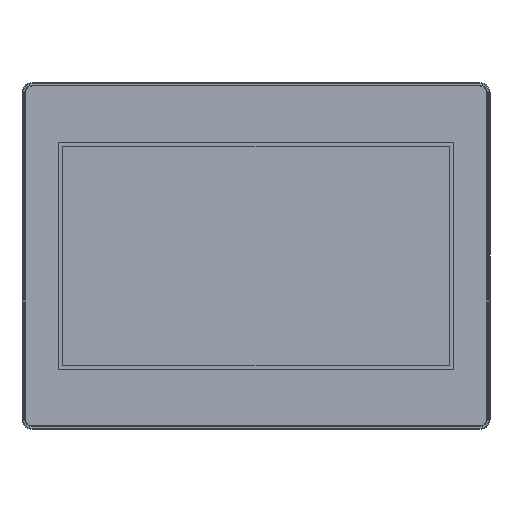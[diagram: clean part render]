
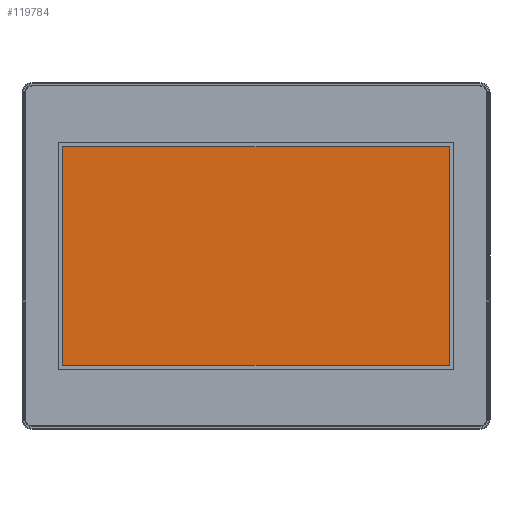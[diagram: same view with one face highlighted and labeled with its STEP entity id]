
A CAD part, top view. The second image highlights one B-rep face of the part: STEP entity #119784.
In plain terms, the highlighted planar face has unit normal (0, 0, 1).
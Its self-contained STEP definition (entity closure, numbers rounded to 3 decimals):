
#118571=CARTESIAN_POINT('',(-111.56,62.84,0.15));
#118572=DIRECTION('',(0.,0.,-1.));
#118573=DIRECTION('',(-1.,0.,0.));
#118574=AXIS2_PLACEMENT_3D('',#118571,#118572,#118573);
#118579=DIRECTION('',(1.,0.,0.));
#118580=VECTOR('',#118579,223.12);
#118581=CARTESIAN_POINT('',(-111.56,63.14,0.15));
#118582=LINE('',#118581,#118580);
#118586=CARTESIAN_POINT('',(111.56,62.84,0.15));
#118587=DIRECTION('',(0.,0.,-1.));
#118588=DIRECTION('',(0.,1.,0.));
#118589=AXIS2_PLACEMENT_3D('',#118586,#118587,#118588);
#118594=DIRECTION('',(0.,-1.,0.));
#118595=VECTOR('',#118594,125.68);
#118596=CARTESIAN_POINT('',(111.86,62.84,0.15));
#118597=LINE('',#118596,#118595);
#118601=CARTESIAN_POINT('',(111.56,-62.84,0.15));
#118602=DIRECTION('',(0.,0.,-1.));
#118603=DIRECTION('',(1.,0.,0.));
#118604=AXIS2_PLACEMENT_3D('',#118601,#118602,#118603);
#118609=DIRECTION('',(-1.,0.,0.));
#118610=VECTOR('',#118609,223.12);
#118611=CARTESIAN_POINT('',(111.56,-63.14,0.15));
#118612=LINE('',#118611,#118610);
#118616=CARTESIAN_POINT('',(-111.56,-62.84,0.15));
#118617=DIRECTION('',(0.,0.,-1.));
#118618=DIRECTION('',(0.,-1.,0.));
#118619=AXIS2_PLACEMENT_3D('',#118616,#118617,#118618);
#118624=DIRECTION('',(0.,1.,0.));
#118625=VECTOR('',#118624,125.68);
#118626=CARTESIAN_POINT('',(-111.86,-62.84,0.15));
#118627=LINE('',#118626,#118625);
#119158=CARTESIAN_POINT('',(-111.56,63.14,0.15));
#119159=VERTEX_POINT('',#119158);
#119160=CARTESIAN_POINT('',(111.56,63.14,0.15));
#119161=VERTEX_POINT('',#119160);
#119162=CARTESIAN_POINT('',(-111.86,62.84,0.15));
#119163=VERTEX_POINT('',#119162);
#119164=CARTESIAN_POINT('',(-111.86,-62.84,0.15));
#119165=VERTEX_POINT('',#119164);
#119166=CARTESIAN_POINT('',(-111.56,-63.14,0.15));
#119167=VERTEX_POINT('',#119166);
#119168=CARTESIAN_POINT('',(111.56,-63.14,0.15));
#119169=VERTEX_POINT('',#119168);
#119170=CARTESIAN_POINT('',(111.86,-62.84,0.15));
#119171=VERTEX_POINT('',#119170);
#119172=CARTESIAN_POINT('',(111.86,62.84,0.15));
#119173=VERTEX_POINT('',#119172);
#119769=CARTESIAN_POINT('',(0.,0.,0.15));
#119770=DIRECTION('',(0.,0.,1.));
#119771=DIRECTION('',(1.,0.,0.));
#119772=AXIS2_PLACEMENT_3D('',#119769,#119770,#119771);
#119773=PLANE('',#119772);
#119774=ORIENTED_EDGE('',*,*,#119681,.T.);
#119775=ORIENTED_EDGE('',*,*,#119667,.T.);
#119776=ORIENTED_EDGE('',*,*,#119764,.T.);
#119777=ORIENTED_EDGE('',*,*,#119751,.T.);
#119778=ORIENTED_EDGE('',*,*,#119737,.T.);
#119779=ORIENTED_EDGE('',*,*,#119723,.T.);
#119780=ORIENTED_EDGE('',*,*,#119709,.T.);
#119781=ORIENTED_EDGE('',*,*,#119695,.T.);
#119782=EDGE_LOOP('',(#119774,#119775,#119776,#119777,#119778,#119779,#119780,
#119781));
#119783=FACE_OUTER_BOUND('',#119782,.F.);
#118575=CIRCLE('',#118574,0.3);
#118590=CIRCLE('',#118589,0.3);
#118605=CIRCLE('',#118604,0.3);
#118620=CIRCLE('',#118619,0.3);
#119667=EDGE_CURVE('',#119159,#119161,#118582,.T.);
#119681=EDGE_CURVE('',#119163,#119159,#118575,.T.);
#119695=EDGE_CURVE('',#119165,#119163,#118627,.T.);
#119709=EDGE_CURVE('',#119167,#119165,#118620,.T.);
#119723=EDGE_CURVE('',#119169,#119167,#118612,.T.);
#119737=EDGE_CURVE('',#119171,#119169,#118605,.T.);
#119751=EDGE_CURVE('',#119173,#119171,#118597,.T.);
#119764=EDGE_CURVE('',#119161,#119173,#118590,.T.);
#119784=ADVANCED_FACE('',(#119783),#119773,.T.);
